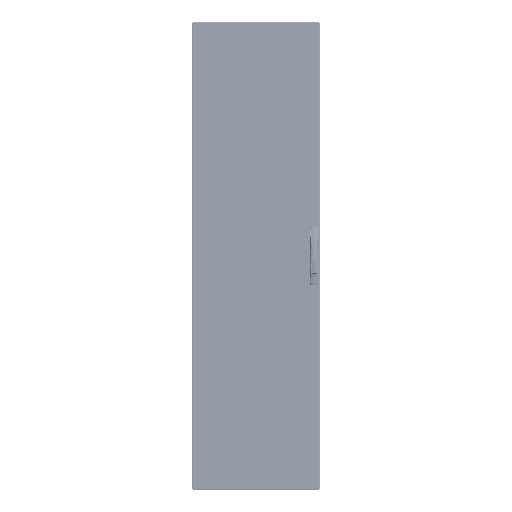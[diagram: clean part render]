
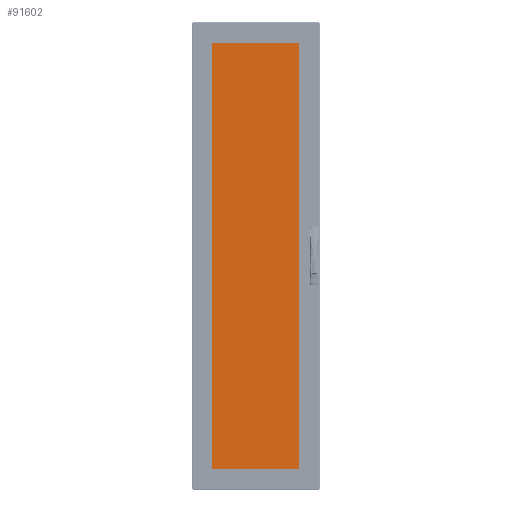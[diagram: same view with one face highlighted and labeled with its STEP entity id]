
A CAD part, top view. The second image highlights one B-rep face of the part: STEP entity #91602.
In plain terms, the highlighted planar face has unit normal (0, 0, 1) as drawn and (0, 0, -1) by its records, which use the part's own axes.
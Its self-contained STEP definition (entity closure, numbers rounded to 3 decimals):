
#841 = CARTESIAN_POINT ( 'NONE',  ( 216., 1008., 0. ) ) ;
#2891 = EDGE_CURVE ( 'NONE', #75482, #33381, #97893, .T. ) ;
#16720 = EDGE_CURVE ( 'NONE', #111309, #75482, #60509, .T. ) ;
#19313 = LINE ( 'NONE', #88379, #45924 ) ;
#20202 = CARTESIAN_POINT ( 'NONE',  ( -216., -1008., 0. ) ) ;
#28433 = LINE ( 'NONE', #71356, #75563 ) ;
#33381 = VERTEX_POINT ( 'NONE', #20202 ) ;
#34084 = DIRECTION ( 'NONE',  ( 0., 0., 1. ) ) ;
#36893 = VECTOR ( 'NONE', #127760, 1000. ) ;
#38274 = DIRECTION ( 'NONE',  ( 0., 1., 0. ) ) ;
#42359 = ORIENTED_EDGE ( 'NONE', *, *, #64879, .F. ) ;
#42896 = ORIENTED_EDGE ( 'NONE', *, *, #49566, .F. ) ;
#45740 = CARTESIAN_POINT ( 'NONE',  ( -216., 1008., 0. ) ) ;
#45924 = VECTOR ( 'NONE', #38274, 1000. ) ;
#48359 = VERTEX_POINT ( 'NONE', #98462 ) ;
#49566 = EDGE_CURVE ( 'NONE', #33381, #48359, #28433, .T. ) ;
#60509 = LINE ( 'NONE', #67582, #36893 ) ;
#63974 = CARTESIAN_POINT ( 'NONE',  ( -216., -1008., 0. ) ) ;
#64879 = EDGE_CURVE ( 'NONE', #48359, #111309, #19313, .T. ) ;
#65988 = DIRECTION ( 'NONE',  ( 0., -1., 0. ) ) ;
#67582 = CARTESIAN_POINT ( 'NONE',  ( -216., 1008., 0. ) ) ;
#67634 = AXIS2_PLACEMENT_3D ( 'NONE', #63974, #34084, #104382 ) ;
#71356 = CARTESIAN_POINT ( 'NONE',  ( -216., -1008., 0. ) ) ;
#75482 = VERTEX_POINT ( 'NONE', #91049 ) ;
#75563 = VECTOR ( 'NONE', #121824, 1000. ) ;
#86406 = ORIENTED_EDGE ( 'NONE', *, *, #2891, .F. ) ;
#88379 = CARTESIAN_POINT ( 'NONE',  ( 216., 1008., 0. ) ) ;
#91049 = CARTESIAN_POINT ( 'NONE',  ( -216., 1008., 0. ) ) ;
#91602 = ADVANCED_FACE ( 'Face1', ( #110467 ), #94278, .F. ) ;
#94278 = PLANE ( 'NONE',  #67634 ) ;
#95858 = ORIENTED_EDGE ( 'NONE', *, *, #16720, .F. ) ;
#97893 = LINE ( 'NONE', #45740, #121434 ) ;
#98462 = CARTESIAN_POINT ( 'NONE',  ( 216., -1008., 0. ) ) ;
#103484 = EDGE_LOOP ( 'NONE', ( #86406, #95858, #42359, #42896 ) ) ;
#104382 = DIRECTION ( 'NONE',  ( 1., 0., 0. ) ) ;
#110467 = FACE_OUTER_BOUND ( 'NONE', #103484, .T. ) ;
#111309 = VERTEX_POINT ( 'NONE', #841 ) ;
#121434 = VECTOR ( 'NONE', #65988, 1000. ) ;
#121824 = DIRECTION ( 'NONE',  ( 1., 0., 0. ) ) ;
#127760 = DIRECTION ( 'NONE',  ( -1., 0., 0. ) ) ;
